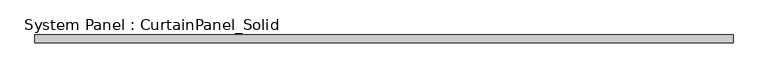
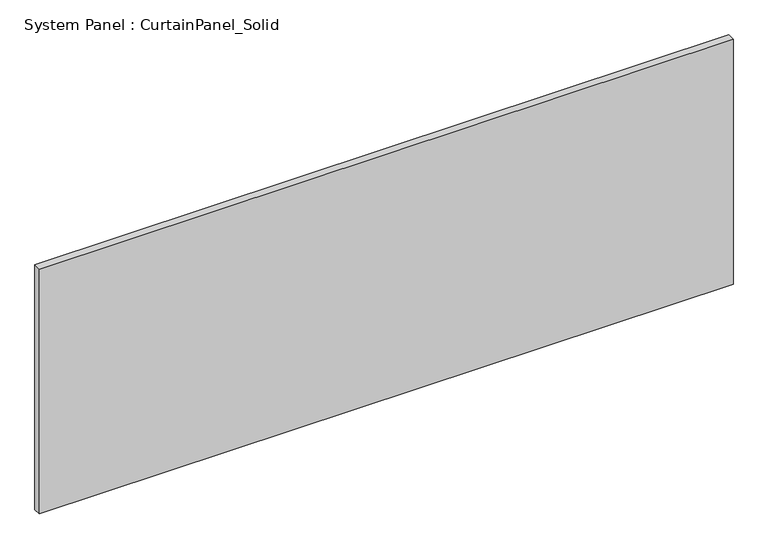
"""IFC4 building model written with IfcOpenShell, lengths in millimetres: plate geometry, System Panel : CurtainPanel_Solid."""

from ifc_helpers import new_model, si_unit, origin, origin_with_axes, place, context, project, spatial, polyline, outline, extrude, source, transform, mapped, element, save


def system_panel_curtainpanel_solid_f2f4bc37(model_context):
    return source(origin(), model_context, "Body", "SweptSolid", [
        extrude(outline(polyline([(1138.6000001, -12.5), (-1138.6000001, -12.5), (-1138.6000001, 12.5), (1138.6000001, 12.5), (1138.6000001, -12.5)])), origin_with_axes(), (0.0, 0.0, 1.0), 850.0),
    ])


if __name__ == "__main__":
    model = new_model("IFC4")
    model_context = context("Model", 3, world=origin())
    ifc_project = project(units=[si_unit("LENGTHUNIT", "METRE", prefix="MILLI")], contexts=[model_context])
    site = spatial("IfcSite", under=ifc_project)
    building = spatial("IfcBuilding", under=site)
    placement = place(None, origin())
    system_panel_curtainpanel_solid_shape = system_panel_curtainpanel_solid_f2f4bc37(model_context)
    element("IfcPlate", 1, ObjectType="System Panel : CurtainPanel_Solid", at=placement, inside=building, context=model_context, shape_type="MappedRepresentation", body=[
        mapped(system_panel_curtainpanel_solid_shape, transform((0.0, 0.0, 0.0), x_axis=(1.0, 0.0, 0.0), y_axis=(0.0, 1.0, 0.0), z_axis=(0.0, 0.0, 1.0))),
    ])
    save(model, "model.ifc")
